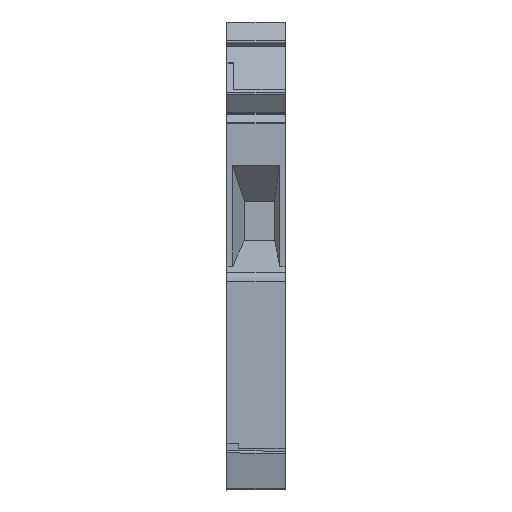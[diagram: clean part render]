
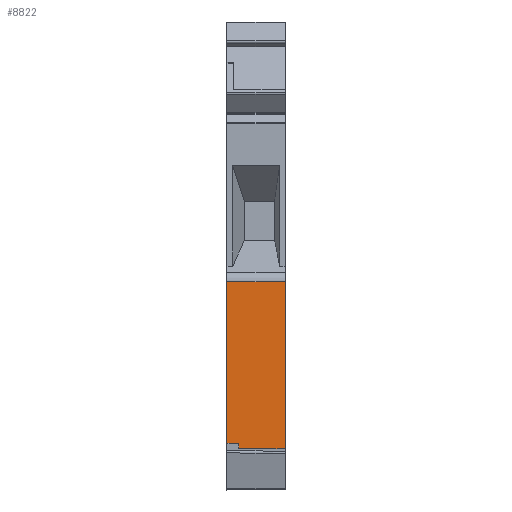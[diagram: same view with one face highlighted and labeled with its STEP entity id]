
A CAD part, left-side view. The second image highlights one B-rep face of the part: STEP entity #8822.
In plain terms, the highlighted planar face has unit normal (-1, 0, 0).
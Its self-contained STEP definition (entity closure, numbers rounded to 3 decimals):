
#2122=ORIENTED_EDGE('',*,*,#3238,.T.);
#2123=ORIENTED_EDGE('',*,*,#3026,.T.);
#2124=ORIENTED_EDGE('',*,*,#3232,.T.);
#2125=ORIENTED_EDGE('',*,*,#2882,.F.);
#2126=ORIENTED_EDGE('',*,*,#3237,.T.);
#2127=ORIENTED_EDGE('',*,*,#2454,.F.);
#2454=EDGE_CURVE('',#3376,#3377,#3971,.T.);
#2882=EDGE_CURVE('',#3713,#3714,#4195,.T.);
#3026=EDGE_CURVE('',#3853,#3852,#4270,.T.);
#3232=EDGE_CURVE('',#3852,#3714,#4454,.T.);
#3237=EDGE_CURVE('',#3713,#3377,#4459,.F.);
#3238=EDGE_CURVE('',#3376,#3853,#4460,.F.);
#3376=VERTEX_POINT('',#11641);
#3377=VERTEX_POINT('',#11643);
#3713=VERTEX_POINT('',#12593);
#3714=VERTEX_POINT('',#12595);
#3852=VERTEX_POINT('',#12882);
#3853=VERTEX_POINT('',#12884);
#3971=LINE('',#11642,#4568);
#4195=LINE('',#12594,#4792);
#4270=LINE('',#12883,#4867);
#4454=LINE('',#13319,#5051);
#4459=LINE('',#13329,#5056);
#4460=LINE('',#13331,#5057);
#4568=VECTOR('',#9682,1000.);
#4792=VECTOR('',#10528,1000.);
#4867=VECTOR('',#10753,1000.);
#5051=VECTOR('',#11267,1000.);
#5056=VECTOR('',#11282,1000.);
#5057=VECTOR('',#11285,1000.);
#5436=EDGE_LOOP('',(#2122,#2123,#2124,#2125,#2126,#2127));
#5822=FACE_BOUND('',#5436,.T.);
#6050=PLANE('',#9480);
#8822=ADVANCED_FACE('',(#5822),#6050,.T.);
#9480=AXIS2_PLACEMENT_3D('',#13330,#11283,#11284);
#9682=DIRECTION('',(0.,0.,-1.));
#10528=DIRECTION('',(0.,0.,1.));
#10753=DIRECTION('',(0.,0.,-1.));
#11267=DIRECTION('',(0.,-1.,-0.009));
#11282=DIRECTION('',(0.,1.,0.009));
#11283=DIRECTION('',(-1.,0.,0.));
#11284=DIRECTION('',(0.,0.,1.));
#11285=DIRECTION('',(0.,-1.,0.));
#11641=CARTESIAN_POINT('',(-19.5,0.,4.369));
#11642=CARTESIAN_POINT('',(-19.5,0.,0.));
#11643=CARTESIAN_POINT('',(-19.5,0.,-12.194));
#12593=CARTESIAN_POINT('',(-19.5,4.,-12.159));
#12594=CARTESIAN_POINT('',(-19.5,4.,-9.5));
#12595=CARTESIAN_POINT('',(-19.5,4.,-9.509));
#12882=CARTESIAN_POINT('',(-19.5,5.,-9.5));
#12883=CARTESIAN_POINT('',(-19.5,5.,0.));
#12884=CARTESIAN_POINT('',(-19.5,5.,4.369));
#13319=CARTESIAN_POINT('',(-19.5,5.05,-9.5));
#13329=CARTESIAN_POINT('',(-19.5,5.106,-12.149));
#13330=CARTESIAN_POINT('',(-19.5,5.,0.));
#13331=CARTESIAN_POINT('',(-19.5,5.,4.369));
